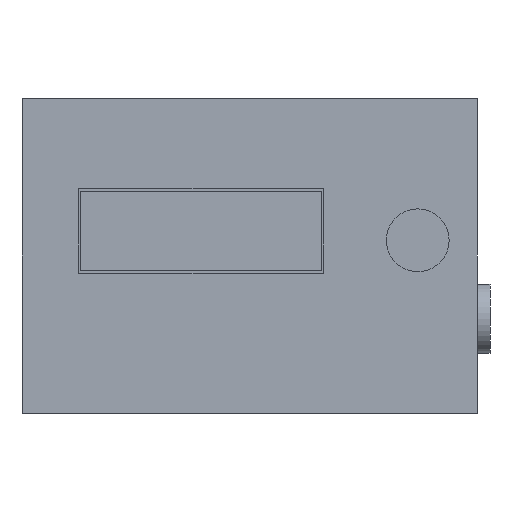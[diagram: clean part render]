
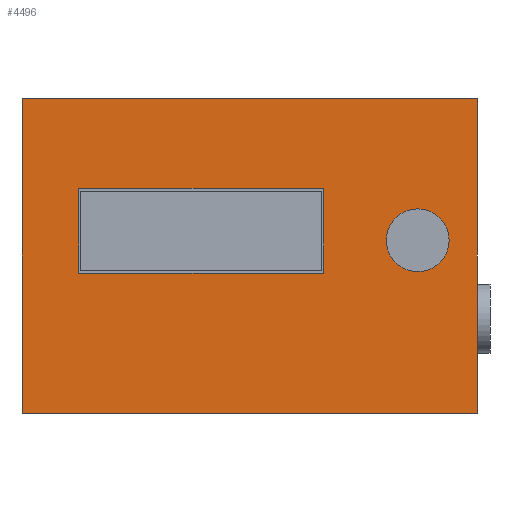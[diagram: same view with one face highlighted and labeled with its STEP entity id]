
A CAD part, front view. The second image highlights one B-rep face of the part: STEP entity #4496.
In plain terms, the highlighted planar face has unit normal (0, -1, 0).
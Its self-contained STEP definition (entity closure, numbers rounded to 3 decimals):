
#4380 = EDGE_CURVE('',#4381,#4383,#4385,.T.);
#4381 = VERTEX_POINT('',#4382);
#4382 = CARTESIAN_POINT('',(0.,-85.,0.));
#4383 = VERTEX_POINT('',#4384);
#4384 = CARTESIAN_POINT('',(0.,-85.,100.));
#4385 = SURFACE_CURVE('',#4386,(#4390,#4402),.PCURVE_S1.);
#4386 = LINE('',#4387,#4388);
#4387 = CARTESIAN_POINT('',(0.,-85.,0.));
#4388 = VECTOR('',#4389,1.);
#4389 = DIRECTION('',(0.,0.,1.));
#4390 = PCURVE('',#4391,#4396);
#4391 = PLANE('',#4392);
#4392 = AXIS2_PLACEMENT_3D('',#4393,#4394,#4395);
#4393 = CARTESIAN_POINT('',(0.,-85.,0.));
#4394 = DIRECTION('',(1.,0.,0.));
#4395 = DIRECTION('',(0.,0.,1.));
#4396 = DEFINITIONAL_REPRESENTATION('',(#4397),#4401);
#4397 = LINE('',#4398,#4399);
#4398 = CARTESIAN_POINT('',(0.,0.));
#4399 = VECTOR('',#4400,1.);
#4400 = DIRECTION('',(1.,0.));
#4401 = ( GEOMETRIC_REPRESENTATION_CONTEXT(2) 
PARAMETRIC_REPRESENTATION_CONTEXT() REPRESENTATION_CONTEXT('2D SPACE',''
  ) );
#4402 = PCURVE('',#4403,#4408);
#4403 = PLANE('',#4404);
#4404 = AXIS2_PLACEMENT_3D('',#4405,#4406,#4407);
#4405 = CARTESIAN_POINT('',(0.,-85.,0.));
#4406 = DIRECTION('',(0.,1.,0.));
#4407 = DIRECTION('',(0.,0.,1.));
#4408 = DEFINITIONAL_REPRESENTATION('',(#4409),#4413);
#4409 = LINE('',#4410,#4411);
#4410 = CARTESIAN_POINT('',(0.,0.));
#4411 = VECTOR('',#4412,1.);
#4412 = DIRECTION('',(1.,0.));
#4413 = ( GEOMETRIC_REPRESENTATION_CONTEXT(2) 
PARAMETRIC_REPRESENTATION_CONTEXT() REPRESENTATION_CONTEXT('2D SPACE',''
  ) );
#4431 = PLANE('',#4432);
#4432 = AXIS2_PLACEMENT_3D('',#4433,#4434,#4435);
#4433 = CARTESIAN_POINT('',(0.,-85.,0.));
#4434 = DIRECTION('',(0.,0.,1.));
#4435 = DIRECTION('',(1.,0.,0.));
#4485 = PLANE('',#4486);
#4486 = AXIS2_PLACEMENT_3D('',#4487,#4488,#4489);
#4487 = CARTESIAN_POINT('',(0.,-85.,100.));
#4488 = DIRECTION('',(0.,0.,1.));
#4489 = DIRECTION('',(1.,0.,0.));
#4496 = ADVANCED_FACE('',(#4497,#4572,#4686),#4403,.F.);
#4497 = FACE_BOUND('',#4498,.F.);
#4498 = EDGE_LOOP('',(#4499,#4522,#4523,#4546));
#4499 = ORIENTED_EDGE('',*,*,#4500,.F.);
#4500 = EDGE_CURVE('',#4381,#4501,#4503,.T.);
#4501 = VERTEX_POINT('',#4502);
#4502 = CARTESIAN_POINT('',(145.,-85.,0.));
#4503 = SURFACE_CURVE('',#4504,(#4508,#4515),.PCURVE_S1.);
#4504 = LINE('',#4505,#4506);
#4505 = CARTESIAN_POINT('',(0.,-85.,0.));
#4506 = VECTOR('',#4507,1.);
#4507 = DIRECTION('',(1.,0.,0.));
#4508 = PCURVE('',#4403,#4509);
#4509 = DEFINITIONAL_REPRESENTATION('',(#4510),#4514);
#4510 = LINE('',#4511,#4512);
#4511 = CARTESIAN_POINT('',(0.,0.));
#4512 = VECTOR('',#4513,1.);
#4513 = DIRECTION('',(0.,1.));
#4514 = ( GEOMETRIC_REPRESENTATION_CONTEXT(2) 
PARAMETRIC_REPRESENTATION_CONTEXT() REPRESENTATION_CONTEXT('2D SPACE',''
  ) );
#4515 = PCURVE('',#4431,#4516);
#4516 = DEFINITIONAL_REPRESENTATION('',(#4517),#4521);
#4517 = LINE('',#4518,#4519);
#4518 = CARTESIAN_POINT('',(0.,0.));
#4519 = VECTOR('',#4520,1.);
#4520 = DIRECTION('',(1.,0.));
#4521 = ( GEOMETRIC_REPRESENTATION_CONTEXT(2) 
PARAMETRIC_REPRESENTATION_CONTEXT() REPRESENTATION_CONTEXT('2D SPACE',''
  ) );
#4522 = ORIENTED_EDGE('',*,*,#4380,.T.);
#4523 = ORIENTED_EDGE('',*,*,#4524,.T.);
#4524 = EDGE_CURVE('',#4383,#4525,#4527,.T.);
#4525 = VERTEX_POINT('',#4526);
#4526 = CARTESIAN_POINT('',(145.,-85.,100.));
#4527 = SURFACE_CURVE('',#4528,(#4532,#4539),.PCURVE_S1.);
#4528 = LINE('',#4529,#4530);
#4529 = CARTESIAN_POINT('',(0.,-85.,100.));
#4530 = VECTOR('',#4531,1.);
#4531 = DIRECTION('',(1.,0.,0.));
#4532 = PCURVE('',#4403,#4533);
#4533 = DEFINITIONAL_REPRESENTATION('',(#4534),#4538);
#4534 = LINE('',#4535,#4536);
#4535 = CARTESIAN_POINT('',(100.,0.));
#4536 = VECTOR('',#4537,1.);
#4537 = DIRECTION('',(0.,1.));
#4538 = ( GEOMETRIC_REPRESENTATION_CONTEXT(2) 
PARAMETRIC_REPRESENTATION_CONTEXT() REPRESENTATION_CONTEXT('2D SPACE',''
  ) );
#4539 = PCURVE('',#4485,#4540);
#4540 = DEFINITIONAL_REPRESENTATION('',(#4541),#4545);
#4541 = LINE('',#4542,#4543);
#4542 = CARTESIAN_POINT('',(0.,0.));
#4543 = VECTOR('',#4544,1.);
#4544 = DIRECTION('',(1.,0.));
#4545 = ( GEOMETRIC_REPRESENTATION_CONTEXT(2) 
PARAMETRIC_REPRESENTATION_CONTEXT() REPRESENTATION_CONTEXT('2D SPACE',''
  ) );
#4546 = ORIENTED_EDGE('',*,*,#4547,.F.);
#4547 = EDGE_CURVE('',#4501,#4525,#4548,.T.);
#4548 = SURFACE_CURVE('',#4549,(#4553,#4560),.PCURVE_S1.);
#4549 = LINE('',#4550,#4551);
#4550 = CARTESIAN_POINT('',(145.,-85.,0.));
#4551 = VECTOR('',#4552,1.);
#4552 = DIRECTION('',(0.,0.,1.));
#4553 = PCURVE('',#4403,#4554);
#4554 = DEFINITIONAL_REPRESENTATION('',(#4555),#4559);
#4555 = LINE('',#4556,#4557);
#4556 = CARTESIAN_POINT('',(0.,145.));
#4557 = VECTOR('',#4558,1.);
#4558 = DIRECTION('',(1.,0.));
#4559 = ( GEOMETRIC_REPRESENTATION_CONTEXT(2) 
PARAMETRIC_REPRESENTATION_CONTEXT() REPRESENTATION_CONTEXT('2D SPACE',''
  ) );
#4560 = PCURVE('',#4561,#4566);
#4561 = PLANE('',#4562);
#4562 = AXIS2_PLACEMENT_3D('',#4563,#4564,#4565);
#4563 = CARTESIAN_POINT('',(145.,-85.,0.));
#4564 = DIRECTION('',(1.,0.,0.));
#4565 = DIRECTION('',(0.,0.,1.));
#4566 = DEFINITIONAL_REPRESENTATION('',(#4567),#4571);
#4567 = LINE('',#4568,#4569);
#4568 = CARTESIAN_POINT('',(0.,0.));
#4569 = VECTOR('',#4570,1.);
#4570 = DIRECTION('',(1.,0.));
#4571 = ( GEOMETRIC_REPRESENTATION_CONTEXT(2) 
PARAMETRIC_REPRESENTATION_CONTEXT() REPRESENTATION_CONTEXT('2D SPACE',''
  ) );
#4572 = FACE_BOUND('',#4573,.F.);
#4573 = EDGE_LOOP('',(#4574,#4604,#4632,#4660));
#4574 = ORIENTED_EDGE('',*,*,#4575,.F.);
#4575 = EDGE_CURVE('',#4576,#4578,#4580,.T.);
#4576 = VERTEX_POINT('',#4577);
#4577 = CARTESIAN_POINT('',(18.,-85.,71.5));
#4578 = VERTEX_POINT('',#4579);
#4579 = CARTESIAN_POINT('',(96.,-85.,71.5));
#4580 = SURFACE_CURVE('',#4581,(#4585,#4592),.PCURVE_S1.);
#4581 = LINE('',#4582,#4583);
#4582 = CARTESIAN_POINT('',(9.,-85.,71.5));
#4583 = VECTOR('',#4584,1.);
#4584 = DIRECTION('',(1.,0.,0.));
#4585 = PCURVE('',#4403,#4586);
#4586 = DEFINITIONAL_REPRESENTATION('',(#4587),#4591);
#4587 = LINE('',#4588,#4589);
#4588 = CARTESIAN_POINT('',(71.5,9.));
#4589 = VECTOR('',#4590,1.);
#4590 = DIRECTION('',(0.,1.));
#4591 = ( GEOMETRIC_REPRESENTATION_CONTEXT(2) 
PARAMETRIC_REPRESENTATION_CONTEXT() REPRESENTATION_CONTEXT('2D SPACE',''
  ) );
#4592 = PCURVE('',#4593,#4598);
#4593 = PLANE('',#4594);
#4594 = AXIS2_PLACEMENT_3D('',#4595,#4596,#4597);
#4595 = CARTESIAN_POINT('',(18.,-85.1,71.5));
#4596 = DIRECTION('',(0.,0.,1.));
#4597 = DIRECTION('',(1.,0.,0.));
#4598 = DEFINITIONAL_REPRESENTATION('',(#4599),#4603);
#4599 = LINE('',#4600,#4601);
#4600 = CARTESIAN_POINT('',(-9.,0.1));
#4601 = VECTOR('',#4602,1.);
#4602 = DIRECTION('',(1.,0.));
#4603 = ( GEOMETRIC_REPRESENTATION_CONTEXT(2) 
PARAMETRIC_REPRESENTATION_CONTEXT() REPRESENTATION_CONTEXT('2D SPACE',''
  ) );
#4604 = ORIENTED_EDGE('',*,*,#4605,.T.);
#4605 = EDGE_CURVE('',#4576,#4606,#4608,.T.);
#4606 = VERTEX_POINT('',#4607);
#4607 = CARTESIAN_POINT('',(18.,-85.,44.5));
#4608 = SURFACE_CURVE('',#4609,(#4613,#4620),.PCURVE_S1.);
#4609 = LINE('',#4610,#4611);
#4610 = CARTESIAN_POINT('',(18.,-85.,22.25));
#4611 = VECTOR('',#4612,1.);
#4612 = DIRECTION('',(0.,0.,-1.));
#4613 = PCURVE('',#4403,#4614);
#4614 = DEFINITIONAL_REPRESENTATION('',(#4615),#4619);
#4615 = LINE('',#4616,#4617);
#4616 = CARTESIAN_POINT('',(22.25,18.));
#4617 = VECTOR('',#4618,1.);
#4618 = DIRECTION('',(-1.,0.));
#4619 = ( GEOMETRIC_REPRESENTATION_CONTEXT(2) 
PARAMETRIC_REPRESENTATION_CONTEXT() REPRESENTATION_CONTEXT('2D SPACE',''
  ) );
#4620 = PCURVE('',#4621,#4626);
#4621 = PLANE('',#4622);
#4622 = AXIS2_PLACEMENT_3D('',#4623,#4624,#4625);
#4623 = CARTESIAN_POINT('',(18.,-85.1,44.5));
#4624 = DIRECTION('',(1.,0.,0.));
#4625 = DIRECTION('',(0.,0.,1.));
#4626 = DEFINITIONAL_REPRESENTATION('',(#4627),#4631);
#4627 = LINE('',#4628,#4629);
#4628 = CARTESIAN_POINT('',(-22.25,-0.1));
#4629 = VECTOR('',#4630,1.);
#4630 = DIRECTION('',(-1.,0.));
#4631 = ( GEOMETRIC_REPRESENTATION_CONTEXT(2) 
PARAMETRIC_REPRESENTATION_CONTEXT() REPRESENTATION_CONTEXT('2D SPACE',''
  ) );
#4632 = ORIENTED_EDGE('',*,*,#4633,.T.);
#4633 = EDGE_CURVE('',#4606,#4634,#4636,.T.);
#4634 = VERTEX_POINT('',#4635);
#4635 = CARTESIAN_POINT('',(96.,-85.,44.5));
#4636 = SURFACE_CURVE('',#4637,(#4641,#4648),.PCURVE_S1.);
#4637 = LINE('',#4638,#4639);
#4638 = CARTESIAN_POINT('',(9.,-85.,44.5));
#4639 = VECTOR('',#4640,1.);
#4640 = DIRECTION('',(1.,0.,0.));
#4641 = PCURVE('',#4403,#4642);
#4642 = DEFINITIONAL_REPRESENTATION('',(#4643),#4647);
#4643 = LINE('',#4644,#4645);
#4644 = CARTESIAN_POINT('',(44.5,9.));
#4645 = VECTOR('',#4646,1.);
#4646 = DIRECTION('',(0.,1.));
#4647 = ( GEOMETRIC_REPRESENTATION_CONTEXT(2) 
PARAMETRIC_REPRESENTATION_CONTEXT() REPRESENTATION_CONTEXT('2D SPACE',''
  ) );
#4648 = PCURVE('',#4649,#4654);
#4649 = PLANE('',#4650);
#4650 = AXIS2_PLACEMENT_3D('',#4651,#4652,#4653);
#4651 = CARTESIAN_POINT('',(18.,-85.1,44.5));
#4652 = DIRECTION('',(0.,0.,1.));
#4653 = DIRECTION('',(1.,0.,0.));
#4654 = DEFINITIONAL_REPRESENTATION('',(#4655),#4659);
#4655 = LINE('',#4656,#4657);
#4656 = CARTESIAN_POINT('',(-9.,0.1));
#4657 = VECTOR('',#4658,1.);
#4658 = DIRECTION('',(1.,0.));
#4659 = ( GEOMETRIC_REPRESENTATION_CONTEXT(2) 
PARAMETRIC_REPRESENTATION_CONTEXT() REPRESENTATION_CONTEXT('2D SPACE',''
  ) );
#4660 = ORIENTED_EDGE('',*,*,#4661,.F.);
#4661 = EDGE_CURVE('',#4578,#4634,#4662,.T.);
#4662 = SURFACE_CURVE('',#4663,(#4667,#4674),.PCURVE_S1.);
#4663 = LINE('',#4664,#4665);
#4664 = CARTESIAN_POINT('',(96.,-85.,22.25));
#4665 = VECTOR('',#4666,1.);
#4666 = DIRECTION('',(0.,0.,-1.));
#4667 = PCURVE('',#4403,#4668);
#4668 = DEFINITIONAL_REPRESENTATION('',(#4669),#4673);
#4669 = LINE('',#4670,#4671);
#4670 = CARTESIAN_POINT('',(22.25,96.));
#4671 = VECTOR('',#4672,1.);
#4672 = DIRECTION('',(-1.,0.));
#4673 = ( GEOMETRIC_REPRESENTATION_CONTEXT(2) 
PARAMETRIC_REPRESENTATION_CONTEXT() REPRESENTATION_CONTEXT('2D SPACE',''
  ) );
#4674 = PCURVE('',#4675,#4680);
#4675 = PLANE('',#4676);
#4676 = AXIS2_PLACEMENT_3D('',#4677,#4678,#4679);
#4677 = CARTESIAN_POINT('',(96.,-85.1,44.5));
#4678 = DIRECTION('',(1.,0.,0.));
#4679 = DIRECTION('',(0.,0.,1.));
#4680 = DEFINITIONAL_REPRESENTATION('',(#4681),#4685);
#4681 = LINE('',#4682,#4683);
#4682 = CARTESIAN_POINT('',(-22.25,-0.1));
#4683 = VECTOR('',#4684,1.);
#4684 = DIRECTION('',(-1.,0.));
#4685 = ( GEOMETRIC_REPRESENTATION_CONTEXT(2) 
PARAMETRIC_REPRESENTATION_CONTEXT() REPRESENTATION_CONTEXT('2D SPACE',''
  ) );
#4686 = FACE_BOUND('',#4687,.F.);
#4687 = EDGE_LOOP('',(#4688));
#4688 = ORIENTED_EDGE('',*,*,#4689,.F.);
#4689 = EDGE_CURVE('',#4690,#4690,#4692,.T.);
#4690 = VERTEX_POINT('',#4691);
#4691 = CARTESIAN_POINT('',(126.,-85.,58.6));
#4692 = SURFACE_CURVE('',#4693,(#4698,#4705),.PCURVE_S1.);
#4693 = CIRCLE('',#4694,3.6);
#4694 = AXIS2_PLACEMENT_3D('',#4695,#4696,#4697);
#4695 = CARTESIAN_POINT('',(126.,-85.,55.));
#4696 = DIRECTION('',(0.,1.,0.));
#4697 = DIRECTION('',(0.,-0.,1.));
#4698 = PCURVE('',#4403,#4699);
#4699 = DEFINITIONAL_REPRESENTATION('',(#4700),#4704);
#4700 = CIRCLE('',#4701,3.6);
#4701 = AXIS2_PLACEMENT_2D('',#4702,#4703);
#4702 = CARTESIAN_POINT('',(55.,126.));
#4703 = DIRECTION('',(1.,0.));
#4704 = ( GEOMETRIC_REPRESENTATION_CONTEXT(2) 
PARAMETRIC_REPRESENTATION_CONTEXT() REPRESENTATION_CONTEXT('2D SPACE',''
  ) );
#4705 = PCURVE('',#4706,#4711);
#4706 = CYLINDRICAL_SURFACE('',#4707,3.6);
#4707 = AXIS2_PLACEMENT_3D('',#4708,#4709,#4710);
#4708 = CARTESIAN_POINT('',(126.,-85.1,55.));
#4709 = DIRECTION('',(0.,1.,0.));
#4710 = DIRECTION('',(0.,-0.,1.));
#4711 = DEFINITIONAL_REPRESENTATION('',(#4712),#4716);
#4712 = LINE('',#4713,#4714);
#4713 = CARTESIAN_POINT('',(0.,0.1));
#4714 = VECTOR('',#4715,1.);
#4715 = DIRECTION('',(1.,0.));
#4716 = ( GEOMETRIC_REPRESENTATION_CONTEXT(2) 
PARAMETRIC_REPRESENTATION_CONTEXT() REPRESENTATION_CONTEXT('2D SPACE',''
  ) );
